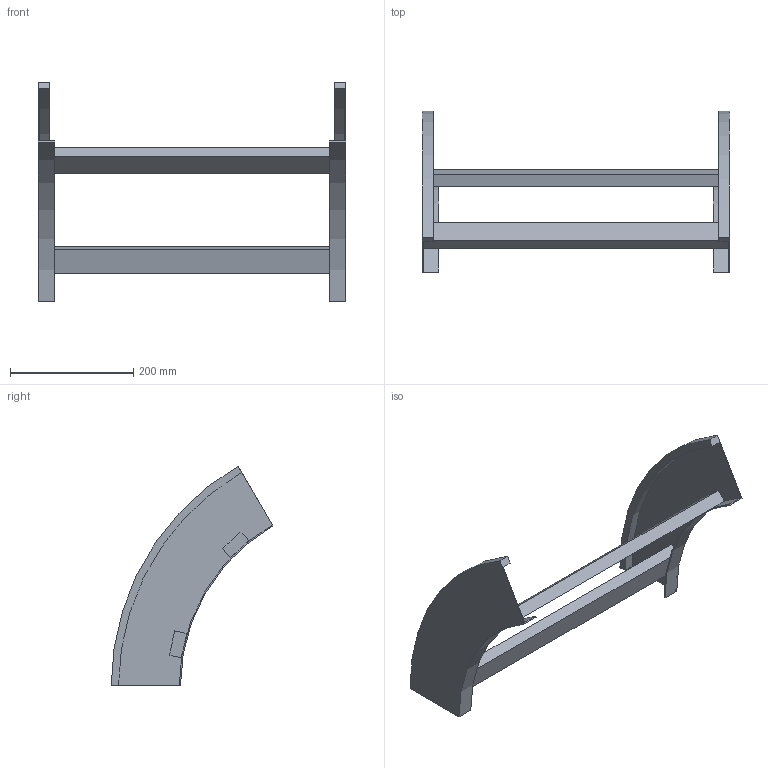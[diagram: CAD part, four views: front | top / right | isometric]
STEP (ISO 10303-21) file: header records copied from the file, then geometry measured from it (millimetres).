
FILE_DESCRIPTION (( 'STEP AP214' ), '1' );
FILE_NAME ('B2_41B3J500.step', '2025-02-21T14:58:57', ( '' ), ( '' ), 'SwSTEP 2.0', 'SolidWorks 2023', '' );
FILE_SCHEMA (( 'AUTOMOTIVE_DESIGN' ));
Length unit declared in the file: millimetre
Products named in the file (3): TRAVERSINO_500; B2_LONGH.DISCESA_60°_H112.5_R300; B2_41B3J500
Assembly tree (4 placements, depth 2):
  B2_41B3J500
    B2_LONGH.DISCESA_60°_H112.5_R300  x2
    TRAVERSINO_500  x2
Bounding box: 500 x 262.5 x 357.24 mm (x, y, z)
Volume: 1166382.9 mm3; surface area: 354767.9 mm2
Topology: 4 solids, 4 shells, 32 faces, 72 edges, 48 vertices
Faces by surface type: plane 24, cylinder 8
Entity records: 552 total; most frequent: DIRECTION 90, CARTESIAN_POINT 83, ORIENTED_EDGE 72, EDGE_CURVE 36, AXIS2_PLACEMENT_3D 31, VECTOR 28, LINE 28, VERTEX_POINT 24
